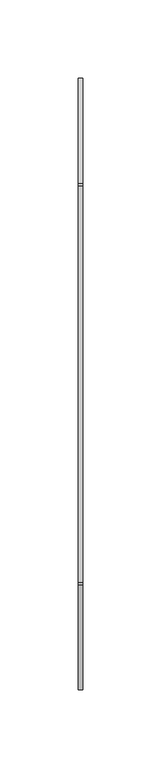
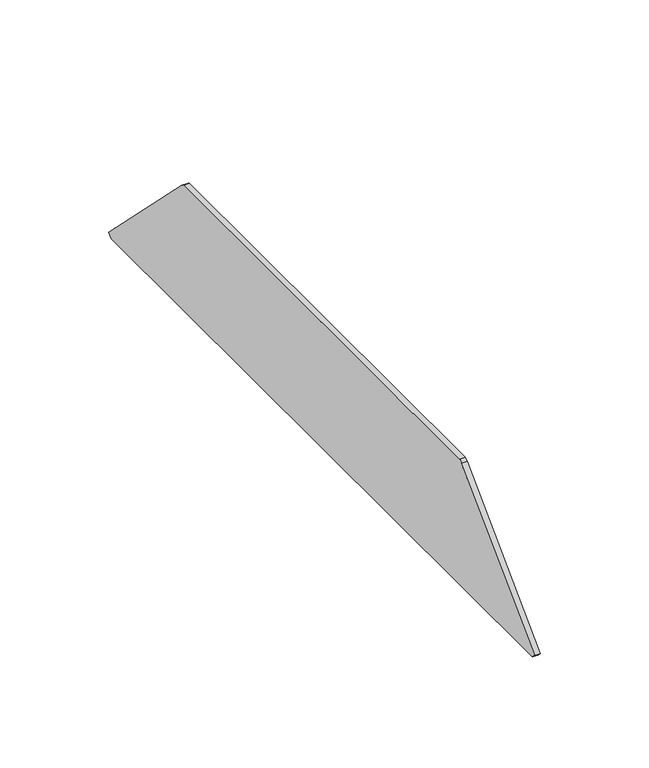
"""IFC4 building model written with IfcOpenShell, lengths in millimetres: cable carrier fitting geometry, Electrical_Installation_Hager_End-Piece : Electrical_Installation_Hager_End-Piece."""

from ifc_helpers import new_model, si_unit, point, frame, frame_2d, origin, place, context, project, spatial, polyline, circle_curve, trimmed, segment, composite_curve, outline, extrude, source, transform, mapped, element, save


def cable_carrier_fitting_a6788f2b(model_context):
    return source(origin(), model_context, "Body", "SweptSolid", [
        extrude(outline(composite_curve([segment(polyline([(195.7213203, -32.8786797), (193.6, -35.0), (-193.6, -35.0), (-195.7213203, -32.8786797), (-128.5142136, 34.3284271)]), True, "CONTINUOUS"), segment(trimmed(circle_curve(frame_2d((-126.0170755, 32.4593317)), 3.1191692), [point((-128.5142136, 34.3284271))], [point((-126.7124549, 35.5))], False, "CARTESIAN"), True, "CONTINUOUS"), segment(polyline([(-126.7124549, 35.5), (126.7124549, 35.5)]), True, "CONTINUOUS"), segment(trimmed(circle_curve(frame_2d((125.5004738, 31.6648514)), 4.0220969), [point((126.7124549, 35.5))], [point((128.5142136, 34.3284271))], False, "CARTESIAN"), True, "CONTINUOUS"), segment(polyline([(128.5142136, 34.3284271), (195.7213203, -32.8786797)]), True, "CONTINUOUS")], self_intersect=False)), frame((0.0, 0.0, 0.0), z_axis=(1.0, 0.0, 0.0), x_axis=(0.0, 1.0, 0.0)), (0.0, 0.0, 1.0), 3.0),
    ])


if __name__ == "__main__":
    model = new_model("IFC4")
    model_context = context("Model", 3, world=origin())
    ifc_project = project(units=[si_unit("LENGTHUNIT", "METRE", prefix="MILLI")], contexts=[model_context])
    site = spatial("IfcSite", under=ifc_project)
    building = spatial("IfcBuilding", under=site)
    placement = place(None, origin())
    cable_carrier_fitting_shape = cable_carrier_fitting_a6788f2b(model_context)
    element("IfcCableCarrierFitting", 1, ObjectType="Electrical_Installation_Hager_End-Piece : Electrical_Installation_Hager_End-Piece", at=placement, inside=building, context=model_context, shape_type="MappedRepresentation", body=[
        mapped(cable_carrier_fitting_shape, transform((0.0, 0.0, 0.0), x_axis=(1.0, 0.0, 0.0), y_axis=(0.0, 1.0, 0.0), z_axis=(0.0, 0.0, 1.0))),
    ])
    save(model, "model.ifc")
